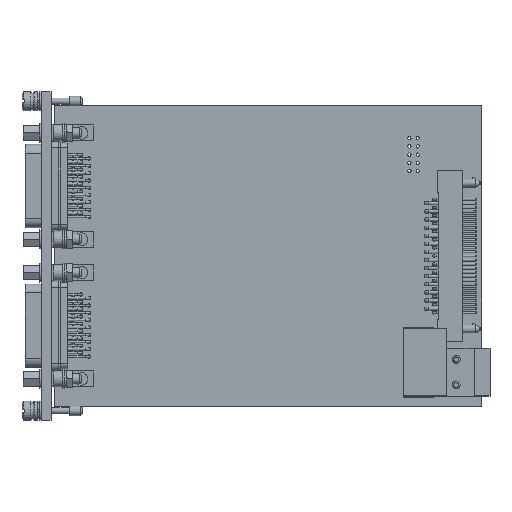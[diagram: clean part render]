
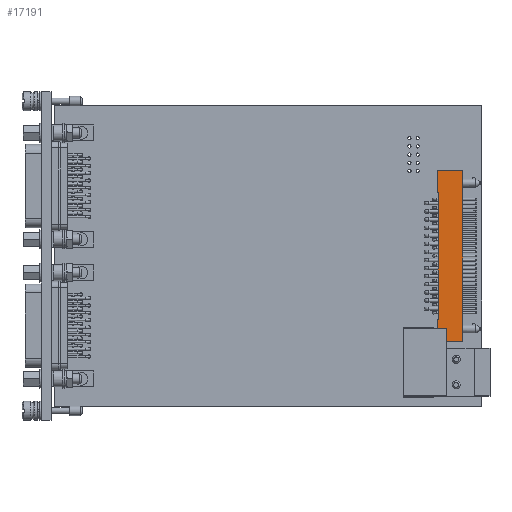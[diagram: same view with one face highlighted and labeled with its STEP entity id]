
A CAD part, top view. The second image highlights one B-rep face of the part: STEP entity #17191.
In plain terms, the highlighted planar face has unit normal (0, 0, 1).
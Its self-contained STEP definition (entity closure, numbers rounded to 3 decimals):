
#17191=ADVANCED_FACE('',(#35854),#35856,.F.);
#35854=FACE_BOUND('',#35855,.T.);
#35855=EDGE_LOOP('',(#47853,#47854,#47855,#47856,#47857,#47858,#47859,#47860));
#35856=PLANE('',#35857);
#35857=AXIS2_PLACEMENT_3D('',#35858,#35859,#35860);
#35858=CARTESIAN_POINT('',(120.1,20.5,6.363));
#35859=DIRECTION('',(0.,0.,-1.));
#35860=DIRECTION('',(-1.,0.,0.));
#47853=ORIENTED_EDGE('',*,*,#53630,.T.);
#47854=ORIENTED_EDGE('',*,*,#53673,.T.);
#47855=ORIENTED_EDGE('',*,*,#53671,.T.);
#47856=ORIENTED_EDGE('',*,*,#53669,.T.);
#47857=ORIENTED_EDGE('',*,*,#53667,.T.);
#47858=ORIENTED_EDGE('',*,*,#53636,.T.);
#47859=ORIENTED_EDGE('',*,*,#53634,.T.);
#47860=ORIENTED_EDGE('',*,*,#53632,.T.);
#53630=EDGE_CURVE('',#62095,#62093,#62096,.T.);
#53632=EDGE_CURVE('',#62098,#62095,#62099,.T.);
#53634=EDGE_CURVE('',#62101,#62098,#62102,.T.);
#53636=EDGE_CURVE('',#62104,#62101,#62105,.T.);
#53667=EDGE_CURVE('',#62165,#62104,#62166,.T.);
#53669=EDGE_CURVE('',#62168,#62165,#62169,.T.);
#53671=EDGE_CURVE('',#62171,#62168,#62172,.T.);
#53673=EDGE_CURVE('',#62093,#62171,#62174,.T.);
#62093=VERTEX_POINT('',#85531);
#62095=VERTEX_POINT('',#85535);
#62096=LINE('',#85536,#85537);
#62098=VERTEX_POINT('',#85542);
#62099=LINE('',#85543,#85544);
#62101=VERTEX_POINT('',#85549);
#62102=LINE('',#85550,#85551);
#62104=VERTEX_POINT('',#85556);
#62105=LINE('',#85557,#85558);
#62165=VERTEX_POINT('',#85708);
#62166=LINE('',#85709,#85710);
#62168=VERTEX_POINT('',#85715);
#62169=LINE('',#85716,#85717);
#62171=VERTEX_POINT('',#85722);
#62172=LINE('',#85723,#85724);
#62174=LINE('',#85729,#85730);
#85531=CARTESIAN_POINT('',(128.,20.5,6.363));
#85535=CARTESIAN_POINT('',(120.1,20.5,6.363));
#85536=CARTESIAN_POINT('',(120.1,20.5,6.363));
#85537=VECTOR('',#85538,1.);
#85538=DIRECTION('',(1.,0.,0.));
#85542=CARTESIAN_POINT('',(120.1,27.5,6.363));
#85543=CARTESIAN_POINT('',(120.1,27.5,6.363));
#85544=VECTOR('',#85545,1.);
#85545=DIRECTION('',(0.,-1.,0.));
#85549=CARTESIAN_POINT('',(120.4,27.5,6.363));
#85550=CARTESIAN_POINT('',(120.4,27.5,6.363));
#85551=VECTOR('',#85552,1.);
#85552=DIRECTION('',(-1.,0.,0.));
#85556=CARTESIAN_POINT('',(120.4,67.,6.363));
#85557=CARTESIAN_POINT('',(120.4,67.,6.363));
#85558=VECTOR('',#85559,1.);
#85559=DIRECTION('',(0.,-1.,0.));
#85708=CARTESIAN_POINT('',(120.1,67.,6.363));
#85709=CARTESIAN_POINT('',(120.1,67.,6.363));
#85710=VECTOR('',#85711,1.);
#85711=DIRECTION('',(1.,0.,0.));
#85715=CARTESIAN_POINT('',(120.1,74.,6.363));
#85716=CARTESIAN_POINT('',(120.1,74.,6.363));
#85717=VECTOR('',#85718,1.);
#85718=DIRECTION('',(0.,-1.,0.));
#85722=CARTESIAN_POINT('',(128.,74.,6.363));
#85723=CARTESIAN_POINT('',(128.,74.,6.363));
#85724=VECTOR('',#85725,1.);
#85725=DIRECTION('',(-1.,0.,0.));
#85729=CARTESIAN_POINT('',(128.,20.5,6.363));
#85730=VECTOR('',#85731,1.);
#85731=DIRECTION('',(0.,1.,0.));
